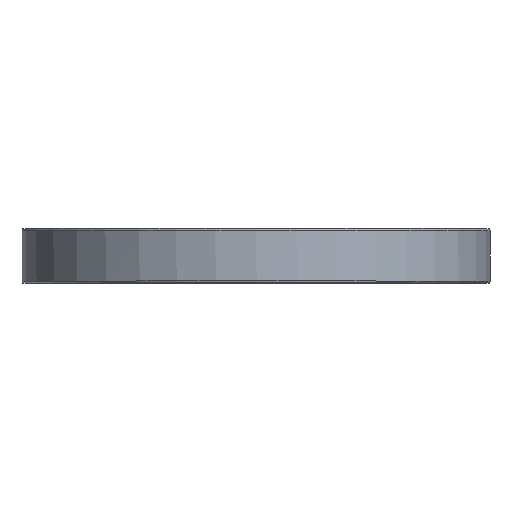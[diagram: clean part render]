
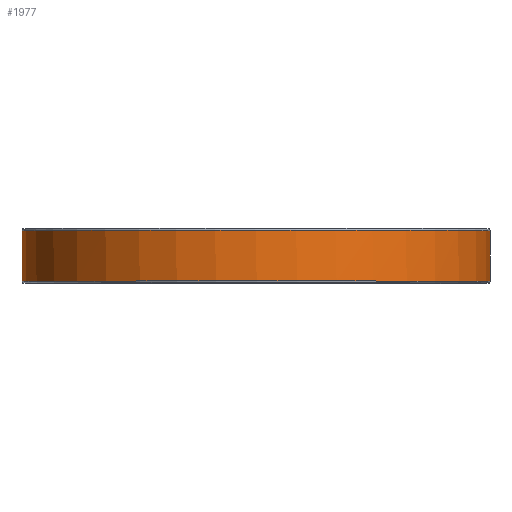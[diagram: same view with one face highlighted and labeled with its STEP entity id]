
A CAD part, top view. The second image highlights one B-rep face of the part: STEP entity #1977.
In plain terms, the highlighted cylindrical face has radius 120 mm (diameter 240 mm), a partial arc.
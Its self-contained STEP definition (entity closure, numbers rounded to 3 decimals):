
#1963=EDGE_CURVE('',#3837,#1971,#5176,.T.);
#1971=VERTEX_POINT('',#5184);
#1977=ADVANCED_FACE('',(#5190),#5191,.T.);
#2267=VERTEX_POINT('',#5530);
#2559=EDGE_CURVE('',#3837,#2267,#5857,.T.);
#2785=EDGE_CURVE('',#3917,#3153,#6105,.T.);
#3043=EDGE_CURVE('',#1971,#3791,#6394,.T.);
#3153=VERTEX_POINT('',#6517);
#3791=VERTEX_POINT('',#7252);
#3837=VERTEX_POINT('',#7302);
#3917=VERTEX_POINT('',#7387);
#3995=EDGE_CURVE('',#3791,#3917,#7477,.T.);
#4455=EDGE_CURVE('',#3153,#2267,#7987,.T.);
#5176=CIRCLE('',#8847,120.0);
#5184=CARTESIAN_POINT('',(-119.998,1.0,0.744));
#5190=FACE_OUTER_BOUND('',#8867,.T.);
#5191=CYLINDRICAL_SURFACE('',#8868,120.0);
#5530=CARTESIAN_POINT('',(120.0,27.0,0.));
#5857=LINE('',#9719,#9720);
#6105=CIRCLE('',#10044,120.0);
#6394=CIRCLE('',#10411,120.0);
#6517=CARTESIAN_POINT('',(119.999,27.0,0.524));
#7252=CARTESIAN_POINT('',(-120.0,1.0,0.));
#7302=CARTESIAN_POINT('',(120.0,1.0,0.));
#7387=CARTESIAN_POINT('',(-120.0,27.0,0.));
#7477=LINE('',#11800,#11801);
#7987=CIRCLE('',#12451,120.0);
#8847=AXIS2_PLACEMENT_3D('',#13321,#13322,#13323);
#8867=EDGE_LOOP('',(#13338,#13339,#13340,#13341,#13342,#13343));
#8868=AXIS2_PLACEMENT_3D('',#13344,#13345,#13346);
#9719=CARTESIAN_POINT('',(120.0,1.0,0.));
#9720=VECTOR('',#14256,26.0);
#10044=AXIS2_PLACEMENT_3D('',#14562,#14563,#14564);
#10411=AXIS2_PLACEMENT_3D('',#14948,#14949,#14950);
#11800=CARTESIAN_POINT('',(-120.0,1.0,0.));
#11801=VECTOR('',#16401,26.0);
#12451=AXIS2_PLACEMENT_3D('',#17036,#17037,#17038);
#13321=CARTESIAN_POINT('',(0.0,1.0,0.0));
#13322=DIRECTION('',(0.0,-1.0,0.0));
#13323=DIRECTION('',(1.0,0.0,0.0));
#13338=ORIENTED_EDGE('',*,*,#3995,.F.);
#13339=ORIENTED_EDGE('',*,*,#3043,.F.);
#13340=ORIENTED_EDGE('',*,*,#1963,.F.);
#13341=ORIENTED_EDGE('',*,*,#2559,.T.);
#13342=ORIENTED_EDGE('',*,*,#4455,.F.);
#13343=ORIENTED_EDGE('',*,*,#2785,.F.);
#13344=CARTESIAN_POINT('',(0.0,0.0,0.0));
#13345=DIRECTION('',(-0.0,1.0,-0.0));
#13346=DIRECTION('',(1.0,0.0,0.0));
#14256=DIRECTION('',(0.0,1.0,0.));
#14562=CARTESIAN_POINT('',(0.0,27.0,0.0));
#14563=DIRECTION('',(0.0,1.0,0.0));
#14564=DIRECTION('',(-1.0,0.0,0.0));
#14948=CARTESIAN_POINT('',(0.0,1.0,0.0));
#14949=DIRECTION('',(0.0,-1.0,0.0));
#14950=DIRECTION('',(1.0,0.0,0.0));
#16401=DIRECTION('',(0.0,1.0,0.));
#17036=CARTESIAN_POINT('',(0.0,27.0,0.0));
#17037=DIRECTION('',(0.0,1.0,0.0));
#17038=DIRECTION('',(-1.0,0.0,0.0));
